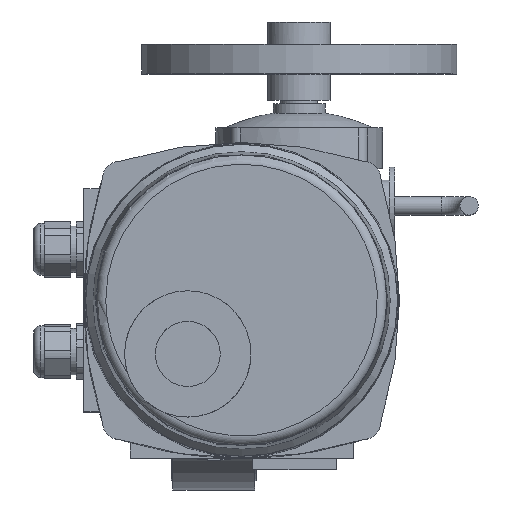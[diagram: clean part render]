
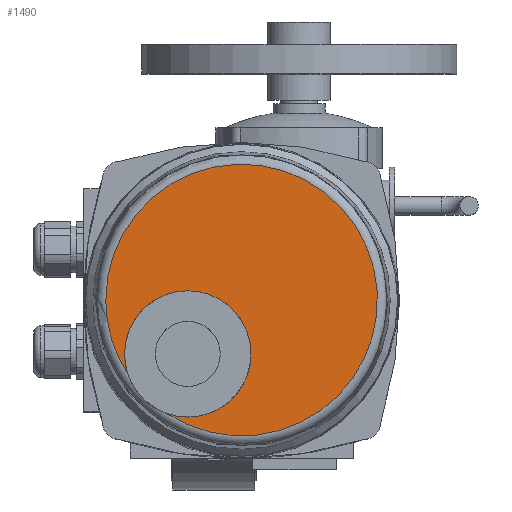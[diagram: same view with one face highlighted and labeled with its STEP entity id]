
A CAD part, top view. The second image highlights one B-rep face of the part: STEP entity #1490.
In plain terms, the highlighted planar face has unit normal (0, 0, 1).
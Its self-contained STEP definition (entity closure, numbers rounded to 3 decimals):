
#1490=ADVANCED_FACE('',(#8876),#8878,.T.);
#8876=FACE_BOUND('',#8877,.T.);
#8877=EDGE_LOOP('',(#14534,#14535,#14536,#14537));
#8878=PLANE('',#8879);
#8879=AXIS2_PLACEMENT_3D('',#8880,#8881,#8882);
#8880=CARTESIAN_POINT('',(15.,35.,433.));
#8881=DIRECTION('',(0.,0.,1.));
#8882=DIRECTION('',(-1.,0.,0.));
#14534=ORIENTED_EDGE('',*,*,#18751,.F.);
#14535=ORIENTED_EDGE('',*,*,#18752,.F.);
#14536=ORIENTED_EDGE('',*,*,#18738,.F.);
#14537=ORIENTED_EDGE('',*,*,#18737,.F.);
#18737=EDGE_CURVE('',#21304,#21307,#21308,.T.);
#18738=EDGE_CURVE('',#21307,#21305,#21309,.T.);
#18751=EDGE_CURVE('',#21330,#21304,#21331,.T.);
#18752=EDGE_CURVE('',#21305,#21330,#21332,.T.);
#21304=VERTEX_POINT('',#26355);
#21305=VERTEX_POINT('',#26356);
#21307=VERTEX_POINT('',#26385);
#21308=CIRCLE('',#26386,73.139);
#21309=CIRCLE('',#26390,73.139);
#21330=VERTEX_POINT('',#26443);
#21331=CIRCLE('',#26444,34.);
#21332=CIRCLE('',#26448,34.);
#26355=CARTESIAN_POINT('',(-46.08,-5.231,433.));
#26356=CARTESIAN_POINT('',(-25.231,-26.08,433.));
#26385=CARTESIAN_POINT('',(-58.139,35.,433.));
#26386=AXIS2_PLACEMENT_3D('',#26387,#26388,#26389);
#26387=CARTESIAN_POINT('',(15.,35.,433.));
#26388=DIRECTION('',(0.,0.,-1.));
#26389=DIRECTION('',(-0.835,-0.55,0.));
#26390=AXIS2_PLACEMENT_3D('',#26391,#26392,#26393);
#26391=CARTESIAN_POINT('',(15.,35.,433.));
#26392=DIRECTION('',(0.,0.,-1.));
#26393=DIRECTION('',(-1.,0.,0.));
#26443=CARTESIAN_POINT('',(-13.991,40.009,433.));
#26444=AXIS2_PLACEMENT_3D('',#26445,#26446,#26447);
#26445=CARTESIAN_POINT('',(-13.991,6.009,433.));
#26446=DIRECTION('',(0.,0.,1.));
#26447=DIRECTION('',(0.,1.,0.));
#26448=AXIS2_PLACEMENT_3D('',#26449,#26450,#26451);
#26449=CARTESIAN_POINT('',(-13.991,6.009,433.));
#26450=DIRECTION('',(0.,0.,1.));
#26451=DIRECTION('',(-0.331,-0.944,0.));
